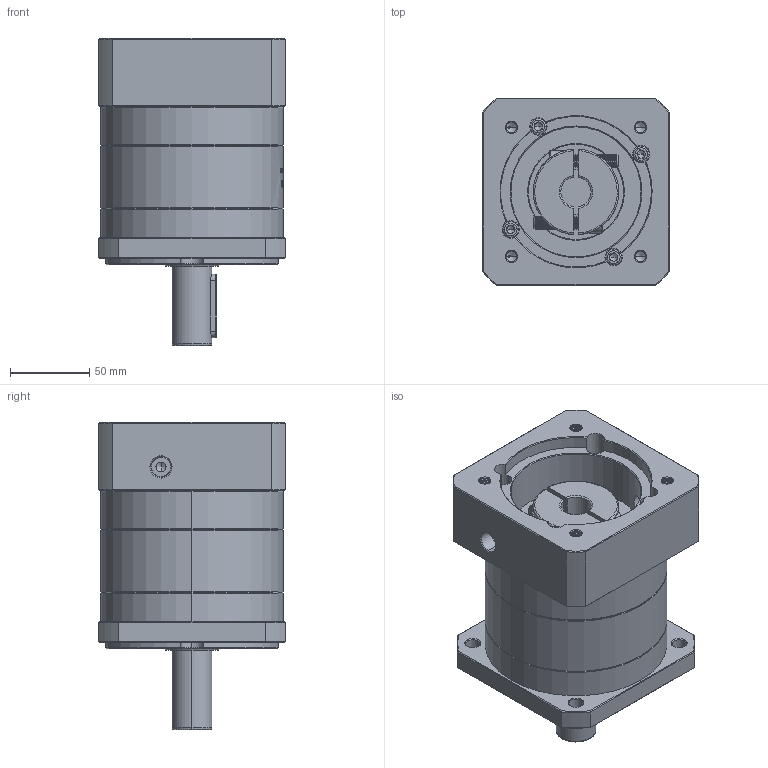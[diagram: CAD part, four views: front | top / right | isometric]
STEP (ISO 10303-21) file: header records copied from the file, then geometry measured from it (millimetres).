
FILE_DESCRIPTION (( 'STEP AP214' ), '1' );
FILE_NAME ('ZF120A-D25-L1-19-95-115-M8.step', '2023-03-07T09:27:58', ( '' ), ( '' ), 'SwSTEP 2.0', 'SolidWorks 2016', '' );
FILE_SCHEMA (( 'AUTOMOTIVE_DESIGN' ));
Length unit declared in the file: millimetre
Products named in the file (1): ZF120A-D25-L1-19-95-115-M8
Bounding box: 118 x 118 x 193.5 mm (x, y, z)
Volume: 1462849 mm3; surface area: 165387 mm2
Topology: 6 solids, 6 shells, 1967 faces, 5181 edges, 3308 vertices
Faces by surface type: plane 857, cylinder 429, bspline 341, cone 340
Entity records: 107841 total; most frequent: CARTESIAN_POINT 41459, ORIENTED_EDGE 10302, DIRECTION 7984, EDGE_CURVE 5151, VERTEX_POINT 3308, LINE 2758, VECTOR 2758, AXIS2_PLACEMENT_3D 2613
